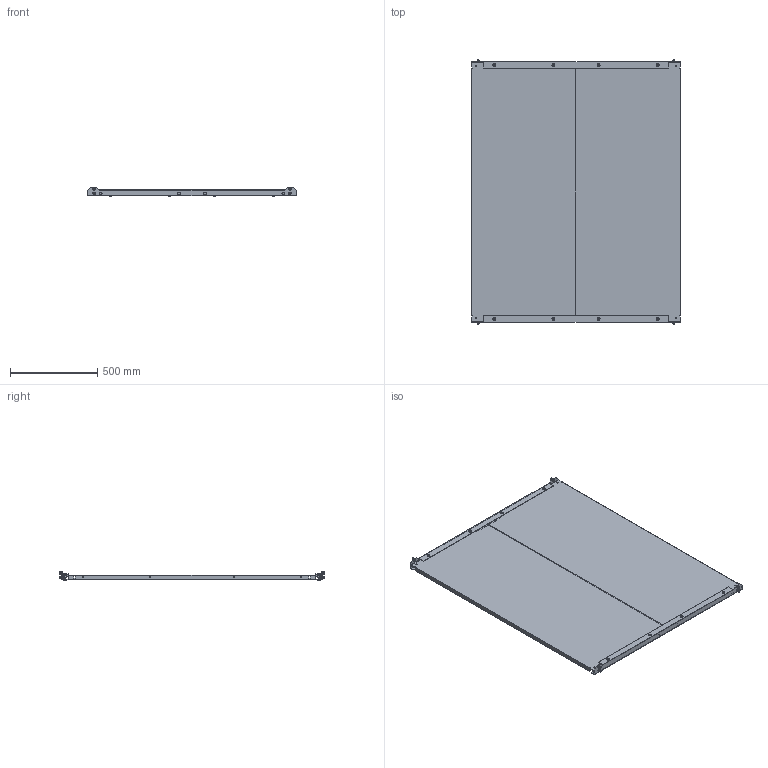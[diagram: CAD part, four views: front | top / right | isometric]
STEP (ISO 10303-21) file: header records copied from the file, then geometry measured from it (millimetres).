
FILE_DESCRIPTION(('Open CASCADE Model'),'2;1');
FILE_NAME('Open CASCADE Shape Model','2025-02-13T16:50:03',('Author'),( 'Open CASCADE'),'Open CASCADE STEP processor 7.8','Open CASCADE 7.8' ,'Unknown');
FILE_SCHEMA(('AUTOMOTIVE_DESIGN { 1 0 10303 214 1 1 1 1 }'));
Length unit declared in the file: millimetre
Products named in the file (14): Compound1; Compound2; Solid1; Solid2; Solid3; Solid4; Compound3; Solid5; Solid6; Solid7; Solid8; Solid9; Solid10; Solid11
Assembly tree (72 placements, depth 3):
  Compound1
    Compound2
      Solid1  x2
      Solid2  x2
      Solid3  x12
      Solid4  x12
    Compound3  x2
      Solid5
      Solid6
    Solid3  x4
    Solid7  x4
    Solid8  x8
    Solid9  x4
    Solid10  x8
    Solid11  x8
Bounding box: 1200 x 1526 x 55.3 mm (x, y, z)
Volume: 5872552.2 mm3; surface area: 4749847.2 mm2
Topology: 74 solids, 74 shells, 4332 faces, 11362 edges, 7154 vertices
Faces by surface type: plane 2088, cylinder 1212, cone 440, bspline 376, torus 200, sphere 16
Full cylindrical faces by diameter (mm): 5 x24, 6 x40, 6.5 x8, 6.8 x64, 8 x8, 8.3 x8, 8.4 x4, 9.5 x8, 10.1 x8, 10.44 x8, 10.5 x8, 11.57 x8, 12 x8, 12.65 x8, 16 x20, 16.55 x16
Entity records: 25786 total; most frequent: CARTESIAN_POINT 6836, ORIENTED_EDGE 3986, DIRECTION 3650, EDGE_CURVE 1993, VERTEX_POINT 1277, LINE 1276, VECTOR 1276, AXIS2_PLACEMENT_3D 1187
